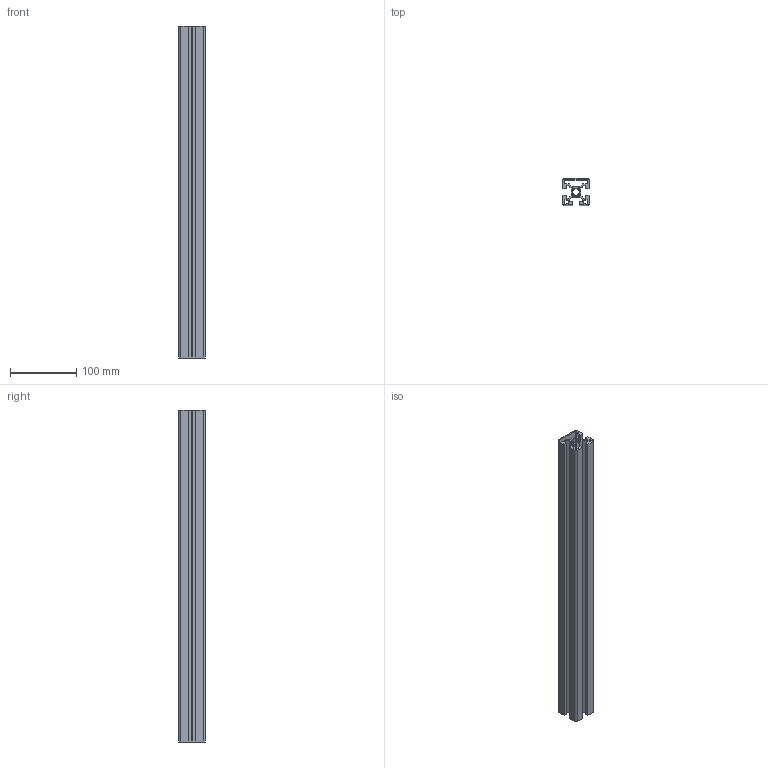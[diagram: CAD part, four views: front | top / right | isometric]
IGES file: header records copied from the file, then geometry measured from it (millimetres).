
Start section: SolidWorks IGES file using analytic representation for surfaces
Global section: file name: C:\Documents and Settings\Administrator\デスクトップ\指定保存後3回目\SolidWorks\SF\SF40・45\Frame\SFF-E04.IGS,41HSolidWorks; native system: 2006 by SolidWorks Corporation; preprocessor: SolidWorks 2006 by SolidWorks Corporation; author: Administrator; date: 061213.113600; units: millimetre
Bounding box: 40 x 40 x 500 mm (x, y, z)
Surface area: 229297.4 mm2 (no closed solid volume)
Topology: 0 solids, 0 shells, 115 faces, 1541 edges, 1880 vertices
Faces by surface type: bspline 61, revolution 54
